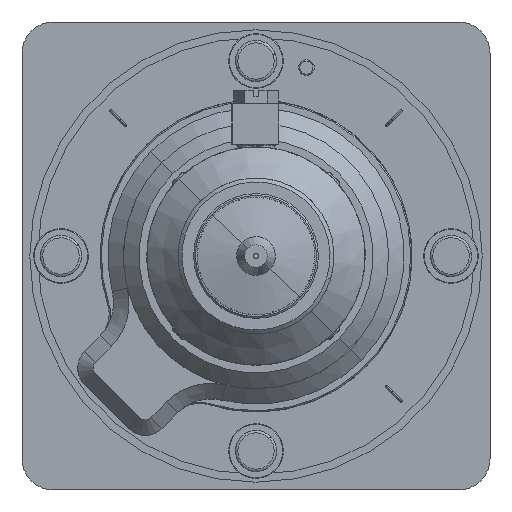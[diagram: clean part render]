
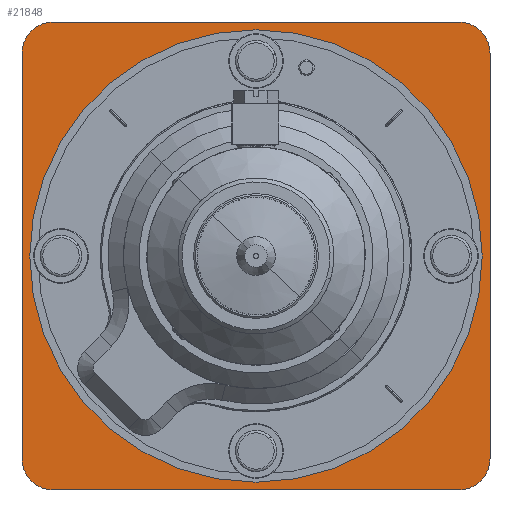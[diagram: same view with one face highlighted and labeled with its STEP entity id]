
A CAD part, front view. The second image highlights one B-rep face of the part: STEP entity #21848.
In plain terms, the highlighted planar face has unit normal (0, -1, 0).
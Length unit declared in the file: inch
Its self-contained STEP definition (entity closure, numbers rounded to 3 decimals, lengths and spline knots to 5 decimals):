
#139 = EDGE_CURVE ( 'Defeatured_0_19+Defeatured_0_24+Defeatured_0_16+Defeatured_0_15', #7749, #16061, #13690, .T. ) ;
#276 = DIRECTION ( 'NONE',  ( 0., 0., 1. ) ) ;
#597 = AXIS2_PLACEMENT_3D ( 'NONE', #6961, #2432, #276 ) ;
#600 = DIRECTION ( 'NONE',  ( 0., 0., -1. ) ) ;
#1246 = AXIS2_PLACEMENT_3D ( 'NONE', #15677, #22081, #24348 ) ;
#1316 = ORIENTED_EDGE ( 'NONE', *, *, #22289, .F. ) ;
#1551 = VECTOR ( 'NONE', #4352, 39.37008 ) ;
#1588 = CARTESIAN_POINT ( 'NONE',  ( 1.625, 0., -1.875 ) ) ;
#1857 = ORIENTED_EDGE ( 'NONE', *, *, #10549, .F. ) ;
#2031 = PLANE ( 'NONE',  #1246 ) ;
#2432 = DIRECTION ( 'NONE',  ( 0., -1., 0. ) ) ;
#2699 = CARTESIAN_POINT ( 'NONE',  ( -1.875, 0., -1.625 ) ) ;
#2973 = CARTESIAN_POINT ( 'NONE',  ( -1.625, 0., 1.625 ) ) ;
#2981 = VERTEX_POINT ( 'NONE', #22680 ) ;
#3604 = CARTESIAN_POINT ( 'NONE',  ( -1.875, 0., -1.875 ) ) ;
#4352 = DIRECTION ( 'NONE',  ( 1., 0., 0. ) ) ;
#5197 = DIRECTION ( 'NONE',  ( 0., 0., 1. ) ) ;
#5638 = DIRECTION ( 'NONE',  ( 0., 0., 1. ) ) ;
#6181 = VECTOR ( 'NONE', #25712, 39.37008 ) ;
#6251 = CARTESIAN_POINT ( 'NONE',  ( 1.875, 0., -1.875 ) ) ;
#6295 = DIRECTION ( 'NONE',  ( 0., -1., 0. ) ) ;
#6961 = CARTESIAN_POINT ( 'NONE',  ( -1.625, 0., -1.625 ) ) ;
#7748 = EDGE_LOOP ( 'NONE', ( #1857, #24954 ) ) ;
#7749 = VERTEX_POINT ( 'NONE', #28639 ) ;
#8265 = AXIS2_PLACEMENT_3D ( 'NONE', #2973, #18703, #5638 ) ;
#8627 = DIRECTION ( 'NONE',  ( 0., 0., -1. ) ) ;
#9404 = VERTEX_POINT ( 'NONE', #12916 ) ;
#9484 = CARTESIAN_POINT ( 'NONE',  ( 1.875, 0., 1.625 ) ) ;
#9622 = DIRECTION ( 'NONE',  ( 0., 0., 1. ) ) ;
#10009 = FACE_BOUND ( 'NONE', #7748, .T. ) ;
#10549 = EDGE_CURVE ( 'Defeatured_0_20+Defeatured_0_19+Defeatured_0_19+Defeatured_0_19', #14392, #17049, #22207, .T. ) ;
#10553 = EDGE_LOOP ( 'NONE', ( #1316, #13711, #20765, #24042, #11702, #24028, #23197, #15264 ) ) ;
#11146 = LINE ( 'NONE', #19806, #18922 ) ;
#11225 = CIRCLE ( 'NONE', #597, 0.25 ) ;
#11702 = ORIENTED_EDGE ( 'NONE', *, *, #24086, .F. ) ;
#11796 = CIRCLE ( 'NONE', #15901, 0.25 ) ;
#11898 = EDGE_CURVE ( 'Defeatured_0_19+Defeatured_0_21+Defeatured_0_18+Defeatured_0_17', #16516, #12421, #22521, .T. ) ;
#12421 = VERTEX_POINT ( 'NONE', #20203 ) ;
#12916 = CARTESIAN_POINT ( 'NONE',  ( 1.625, 0., 1.875 ) ) ;
#13493 = LINE ( 'NONE', #28894, #1551 ) ;
#13690 = CIRCLE ( 'NONE', #8265, 0.25 ) ;
#13711 = ORIENTED_EDGE ( 'NONE', *, *, #11898, .T. ) ;
#14064 = DIRECTION ( 'NONE',  ( 0., -1., 0. ) ) ;
#14392 = VERTEX_POINT ( 'NONE', #22741 ) ;
#15264 = ORIENTED_EDGE ( 'NONE', *, *, #17374, .T. ) ;
#15280 = FACE_OUTER_BOUND ( 'NONE', #10553, .T. ) ;
#15677 = CARTESIAN_POINT ( 'NONE',  ( 0., 0., 0. ) ) ;
#15679 = CIRCLE ( 'NONE', #22105, 1.8125 ) ;
#15901 = AXIS2_PLACEMENT_3D ( 'NONE', #22974, #27381, #5197 ) ;
#16061 = VERTEX_POINT ( 'NONE', #20986 ) ;
#16122 = CARTESIAN_POINT ( 'NONE',  ( 0., 0., 0. ) ) ;
#16485 = CARTESIAN_POINT ( 'NONE',  ( 0., 0., 1.8125 ) ) ;
#16516 = VERTEX_POINT ( 'NONE', #1588 ) ;
#17049 = VERTEX_POINT ( 'NONE', #16485 ) ;
#17255 = DIRECTION ( 'NONE',  ( 0., 0., -1. ) ) ;
#17374 = EDGE_CURVE ( 'Defeatured_0_19+Defeatured_0_23+Defeatured_0_15+Defeatured_0_18', #24207, #2981, #11225, .T. ) ;
#17735 = DIRECTION ( 'NONE',  ( 0., 0., 1. ) ) ;
#18569 = VERTEX_POINT ( 'NONE', #9484 ) ;
#18703 = DIRECTION ( 'NONE',  ( 0., -1., 0. ) ) ;
#18922 = VECTOR ( 'NONE', #17735, 39.37008 ) ;
#19806 = CARTESIAN_POINT ( 'NONE',  ( -1.875, 0., -1.875 ) ) ;
#20076 = EDGE_CURVE ( 'Defeatured_0_20+Defeatured_0_19+Defeatured_0_19+Defeatured_0_19', #17049, #14392, #15679, .T. ) ;
#20193 = LINE ( 'NONE', #3604, #6181 ) ;
#20203 = CARTESIAN_POINT ( 'NONE',  ( 1.875, 0., -1.625 ) ) ;
#20765 = ORIENTED_EDGE ( 'NONE', *, *, #21472, .F. ) ;
#20913 = VECTOR ( 'NONE', #17255, 39.37008 ) ;
#20986 = CARTESIAN_POINT ( 'NONE',  ( -1.875, 0., 1.625 ) ) ;
#21007 = EDGE_CURVE ( 'Defeatured_0_19+Defeatured_0_22+Defeatured_0_17+Defeatured_0_16', #18569, #9404, #11796, .T. ) ;
#21472 = EDGE_CURVE ( 'Defeatured_0_17+Defeatured_0_19+Defeatured_0_22+Defeatured_0_21', #18569, #12421, #28285, .T. ) ;
#21848 = ADVANCED_FACE ( 'Defeatured_0_19', ( #10009, #15280 ), #2031, .F. ) ;
#22081 = DIRECTION ( 'NONE',  ( 0., 1., 0. ) ) ;
#22105 = AXIS2_PLACEMENT_3D ( 'NONE', #16122, #14064, #600 ) ;
#22207 = CIRCLE ( 'NONE', #23845, 1.8125 ) ;
#22289 = EDGE_CURVE ( 'Defeatured_0_18+Defeatured_0_19+Defeatured_0_21+Defeatured_0_23', #16516, #2981, #20193, .T. ) ;
#22521 = CIRCLE ( 'NONE', #22554, 0.25 ) ;
#22554 = AXIS2_PLACEMENT_3D ( 'NONE', #27696, #23284, #9622 ) ;
#22680 = CARTESIAN_POINT ( 'NONE',  ( -1.625, 0., -1.875 ) ) ;
#22741 = CARTESIAN_POINT ( 'NONE',  ( 0., 0., -1.8125 ) ) ;
#22974 = CARTESIAN_POINT ( 'NONE',  ( 1.625, 0., 1.625 ) ) ;
#23197 = ORIENTED_EDGE ( 'NONE', *, *, #28969, .F. ) ;
#23284 = DIRECTION ( 'NONE',  ( 0., -1., 0. ) ) ;
#23845 = AXIS2_PLACEMENT_3D ( 'NONE', #26513, #6295, #8627 ) ;
#24028 = ORIENTED_EDGE ( 'NONE', *, *, #139, .T. ) ;
#24042 = ORIENTED_EDGE ( 'NONE', *, *, #21007, .T. ) ;
#24086 = EDGE_CURVE ( 'Defeatured_0_16+Defeatured_0_19+Defeatured_0_24+Defeatured_0_22', #7749, #9404, #13493, .T. ) ;
#24207 = VERTEX_POINT ( 'NONE', #2699 ) ;
#24348 = DIRECTION ( 'NONE',  ( 0., 0., 1. ) ) ;
#24954 = ORIENTED_EDGE ( 'NONE', *, *, #20076, .F. ) ;
#25712 = DIRECTION ( 'NONE',  ( -1., 0., 0. ) ) ;
#26513 = CARTESIAN_POINT ( 'NONE',  ( 0., 0., 0. ) ) ;
#27381 = DIRECTION ( 'NONE',  ( 0., -1., 0. ) ) ;
#27696 = CARTESIAN_POINT ( 'NONE',  ( 1.625, 0., -1.625 ) ) ;
#28285 = LINE ( 'NONE', #6251, #20913 ) ;
#28639 = CARTESIAN_POINT ( 'NONE',  ( -1.625, 0., 1.875 ) ) ;
#28894 = CARTESIAN_POINT ( 'NONE',  ( -1.875, 0., 1.875 ) ) ;
#28969 = EDGE_CURVE ( 'Defeatured_0_15+Defeatured_0_19+Defeatured_0_23+Defeatured_0_24', #24207, #16061, #11146, .T. ) ;
